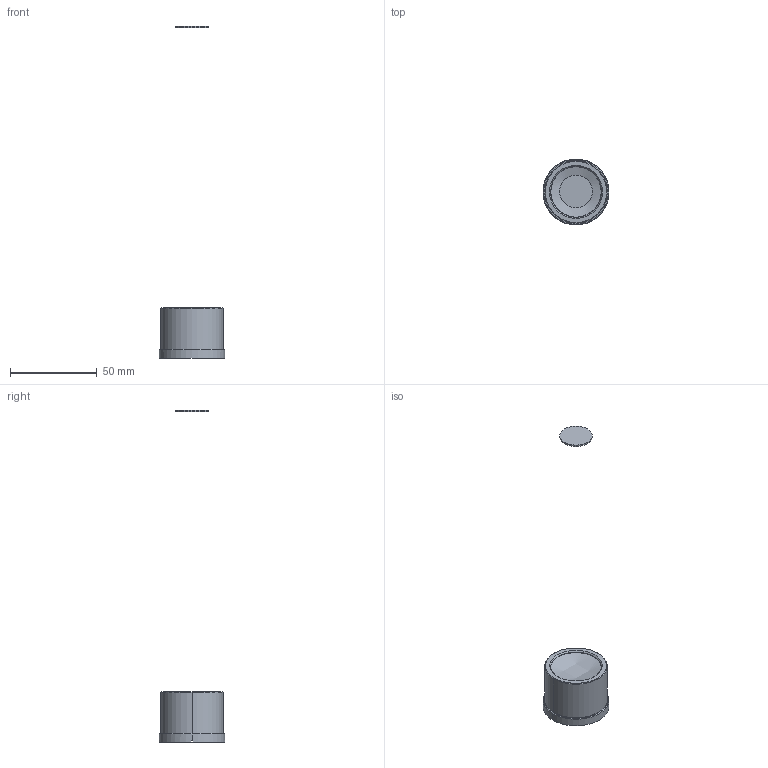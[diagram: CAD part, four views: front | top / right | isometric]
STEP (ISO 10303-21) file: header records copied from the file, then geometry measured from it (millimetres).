
FILE_DESCRIPTION (( 'STEP AP214' ), '1' );
FILE_NAME ('f200round175_f_round.STEP', '2023-01-12T04:40:11', ( '' ), ( '' ), 'SwSTEP 2.0', 'SolidWorks 2016', '' );
FILE_SCHEMA (( 'AUTOMOTIVE_DESIGN' ));
Length unit declared in the file: millimetre
Products named in the file (19): rays; surfaces 6,7; surface 8; surfaces 5,6; 隔圈^f200round175_f_round; surfaces 2,3; ѹȦ; 噩芠^f200round175_f_round; surfaces 3,4; f200round175_f_round
Assembly tree (8 placements, depth 2):
  rays
  surface 8
  rays
  surfaces 5,6
  隔圈^f200round175_f_round
Bounding box: 38 x 38 x 191.2 mm (x, y, z)
Volume: 20585.4 mm3; surface area: 19820.6 mm2
Topology: 8 solids, 8 shells, 74 faces, 158 edges, 104 vertices
Faces by surface type: cylinder 32, plane 28, bspline 8, cone 6
Entity records: 2782 total; most frequent: CARTESIAN_POINT 564, DIRECTION 398, ORIENTED_EDGE 316, AXIS2_PLACEMENT_3D 164, EDGE_CURVE 158, VERTEX_POINT 104, CIRCLE 86, EDGE_LOOP 84
